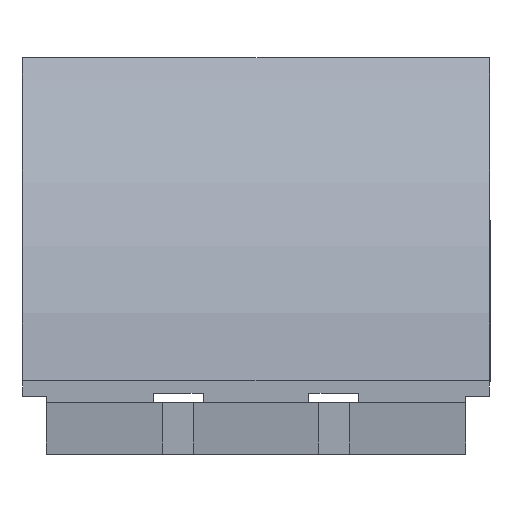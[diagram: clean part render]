
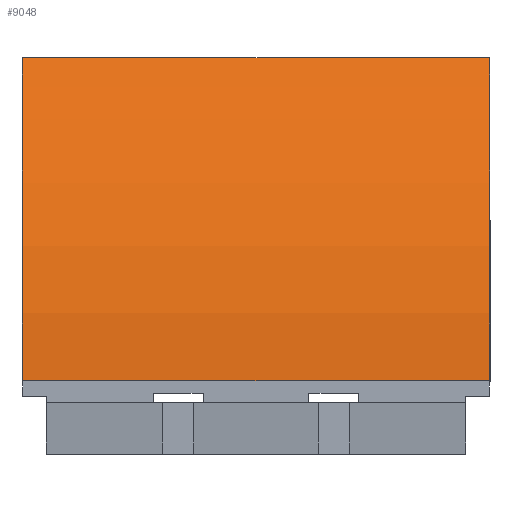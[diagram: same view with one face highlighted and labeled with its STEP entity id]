
A CAD part, top view. The second image highlights one B-rep face of the part: STEP entity #9048.
In plain terms, the highlighted cylindrical face has radius 81 mm (diameter 162 mm), a partial arc.
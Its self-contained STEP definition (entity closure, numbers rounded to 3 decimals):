
#35 = VECTOR ( 'NONE', #8888, 1000. ) ;
#94 = CARTESIAN_POINT ( 'NONE',  ( 37.5, -25.394, -56.135 ) ) ;
#428 = CARTESIAN_POINT ( 'NONE',  ( -37.5, 55.5, -52. ) ) ;
#1128 = CARTESIAN_POINT ( 'NONE',  ( 37.5, 55.5, -52. ) ) ;
#1253 = CARTESIAN_POINT ( 'NONE',  ( -37.524, 46.664, -14.214 ) ) ;
#1489 = EDGE_CURVE ( 'NONE', #7888, #2254, #5155, .T. ) ;
#2254 = VERTEX_POINT ( 'NONE', #5421 ) ;
#2754 = DIRECTION ( 'NONE',  ( -1., 0., 0. ) ) ;
#2915 = CARTESIAN_POINT ( 'NONE',  ( -37.561, 33., 0. ) ) ;
#2928 = FACE_OUTER_BOUND ( 'NONE', #2951, .T. ) ;
#2951 = EDGE_LOOP ( 'NONE', ( #8201, #6294, #9614, #6128 ) ) ;
#3509 = CARTESIAN_POINT ( 'NONE',  ( 37.561, 33., 0. ) ) ;
#3567 = CARTESIAN_POINT ( 'NONE',  ( 37.5, 55.5, -52. ) ) ;
#3572 = CARTESIAN_POINT ( 'NONE',  ( 37.503, 54.494, -32.309 ) ) ;
#4213 = AXIS2_PLACEMENT_3D ( 'NONE', #94, #5665, #9261 ) ;
#4385 = EDGE_CURVE ( 'NONE', #2254, #8135, #6317, .T. ) ;
#5155 =( BOUNDED_CURVE ( )  B_SPLINE_CURVE ( 3, ( #6526, #3572, #8759, #3509 ),
 .UNSPECIFIED., .F., .F. ) 
 B_SPLINE_CURVE_WITH_KNOTS ( ( 4, 4 ),
 ( 0.051, 0.766 ),
 .UNSPECIFIED. ) 
 CURVE ( )  GEOMETRIC_REPRESENTATION_ITEM ( )  RATIONAL_B_SPLINE_CURVE ( ( 1., 0.958, 0.958, 1. ) ) 
 REPRESENTATION_ITEM ( '' )  );
#5421 = CARTESIAN_POINT ( 'NONE',  ( 37.561, 33., 0. ) ) ;
#5575 = VECTOR ( 'NONE', #2754, 1000. ) ;
#5665 = DIRECTION ( 'NONE',  ( -1., 0., 0. ) ) ;
#6128 = ORIENTED_EDGE ( 'NONE', *, *, #6165, .T. ) ;
#6165 = EDGE_CURVE ( 'NONE', #7888, #8581, #7781, .T. ) ;
#6294 = ORIENTED_EDGE ( 'NONE', *, *, #4385, .F. ) ;
#6317 = LINE ( 'NONE', #6677, #35 ) ;
#6526 = CARTESIAN_POINT ( 'NONE',  ( 37.5, 55.5, -52. ) ) ;
#6677 = CARTESIAN_POINT ( 'NONE',  ( 37.5, 33., 0. ) ) ;
#7261 = CARTESIAN_POINT ( 'NONE',  ( -37.503, 54.494, -32.309 ) ) ;
#7781 = LINE ( 'NONE', #3567, #5575 ) ;
#7888 = VERTEX_POINT ( 'NONE', #1128 ) ;
#8045 = EDGE_CURVE ( 'NONE', #8581, #8135, #8195, .T. ) ;
#8135 = VERTEX_POINT ( 'NONE', #8172 ) ;
#8172 = CARTESIAN_POINT ( 'NONE',  ( -37.561, 33., 0. ) ) ;
#8195 =( BOUNDED_CURVE ( )  B_SPLINE_CURVE ( 3, ( #9507, #7261, #1253, #2915 ),
 .UNSPECIFIED., .F., .F. ) 
 B_SPLINE_CURVE_WITH_KNOTS ( ( 4, 4 ),
 ( 3.193, 3.907 ),
 .UNSPECIFIED. ) 
 CURVE ( )  GEOMETRIC_REPRESENTATION_ITEM ( )  RATIONAL_B_SPLINE_CURVE ( ( 1., 0.958, 0.958, 1. ) ) 
 REPRESENTATION_ITEM ( '' )  );
#8201 = ORIENTED_EDGE ( 'NONE', *, *, #8045, .T. ) ;
#8581 = VERTEX_POINT ( 'NONE', #428 ) ;
#8759 = CARTESIAN_POINT ( 'NONE',  ( 37.524, 46.664, -14.214 ) ) ;
#8769 = CYLINDRICAL_SURFACE ( 'NONE', #4213, 81. ) ;
#8888 = DIRECTION ( 'NONE',  ( -1., 0., 0. ) ) ;
#9048 = ADVANCED_FACE ( 'NONE', ( #2928 ), #8769, .T. ) ;
#9261 = DIRECTION ( 'NONE',  ( 0., 0., 1. ) ) ;
#9507 = CARTESIAN_POINT ( 'NONE',  ( -37.5, 55.5, -52. ) ) ;
#9614 = ORIENTED_EDGE ( 'NONE', *, *, #1489, .F. ) ;
